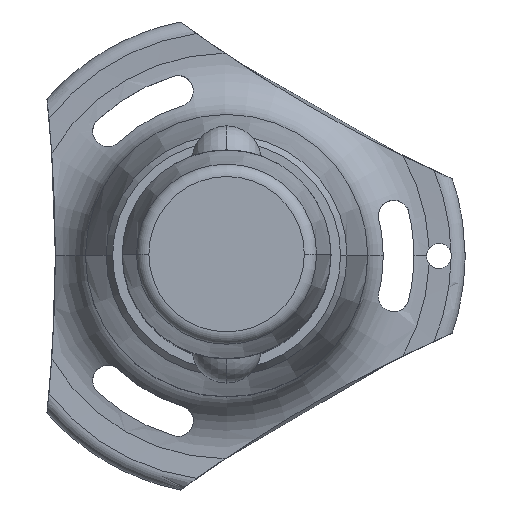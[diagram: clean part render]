
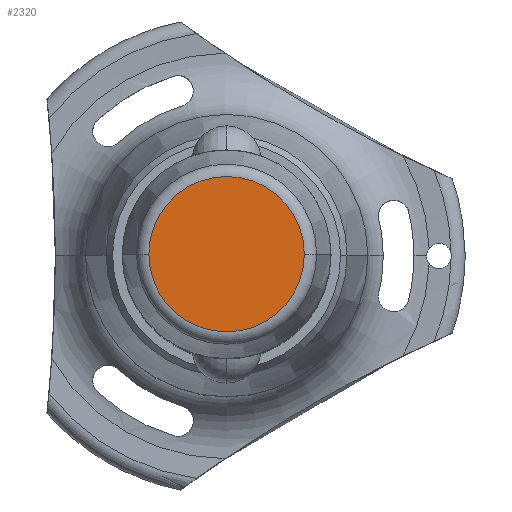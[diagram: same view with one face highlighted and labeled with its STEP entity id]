
A CAD part, top view. The second image highlights one B-rep face of the part: STEP entity #2320.
In plain terms, the highlighted planar face has unit normal (0, 0, 1).
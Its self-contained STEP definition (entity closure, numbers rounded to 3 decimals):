
#137 = DIRECTION ( 'NONE',  ( 1., 0., 0. ) ) ;
#316 = AXIS2_PLACEMENT_3D ( 'NONE', #2056, #432, #2703 ) ;
#432 = DIRECTION ( 'NONE',  ( 0., 0., 1. ) ) ;
#551 = ORIENTED_EDGE ( 'NONE', *, *, #1501, .T. ) ;
#559 = PLANE ( 'NONE',  #1556 ) ;
#818 = DIRECTION ( 'NONE',  ( 0., 0., 1. ) ) ;
#825 = DIRECTION ( 'NONE',  ( 1., 0., 0. ) ) ;
#1132 = CIRCLE ( 'NONE', #1842, 9.302 ) ;
#1245 = VERTEX_POINT ( 'NONE', #1978 ) ;
#1476 = FACE_OUTER_BOUND ( 'NONE', #1658, .T. ) ;
#1501 = EDGE_CURVE ( 'NONE', #1245, #2752, #2409, .T. ) ;
#1512 = CARTESIAN_POINT ( 'NONE',  ( 0., 0., 22. ) ) ;
#1556 = AXIS2_PLACEMENT_3D ( 'NONE', #1512, #1717, #825 ) ;
#1658 = EDGE_LOOP ( 'NONE', ( #551, #1882 ) ) ;
#1717 = DIRECTION ( 'NONE',  ( 0., 0., 1. ) ) ;
#1740 = CARTESIAN_POINT ( 'NONE',  ( 0., 0., 22. ) ) ;
#1842 = AXIS2_PLACEMENT_3D ( 'NONE', #1740, #818, #137 ) ;
#1882 = ORIENTED_EDGE ( 'NONE', *, *, #2730, .T. ) ;
#1978 = CARTESIAN_POINT ( 'NONE',  ( 9.302, 0., 22. ) ) ;
#2056 = CARTESIAN_POINT ( 'NONE',  ( 0., 0., 22. ) ) ;
#2320 = ADVANCED_FACE ( 'NONE', ( #1476 ), #559, .T. ) ;
#2409 = CIRCLE ( 'NONE', #316, 9.302 ) ;
#2414 = CARTESIAN_POINT ( 'NONE',  ( -9.302, 0., 22. ) ) ;
#2703 = DIRECTION ( 'NONE',  ( 1., 0., 0. ) ) ;
#2730 = EDGE_CURVE ( 'NONE', #2752, #1245, #1132, .T. ) ;
#2752 = VERTEX_POINT ( 'NONE', #2414 ) ;
